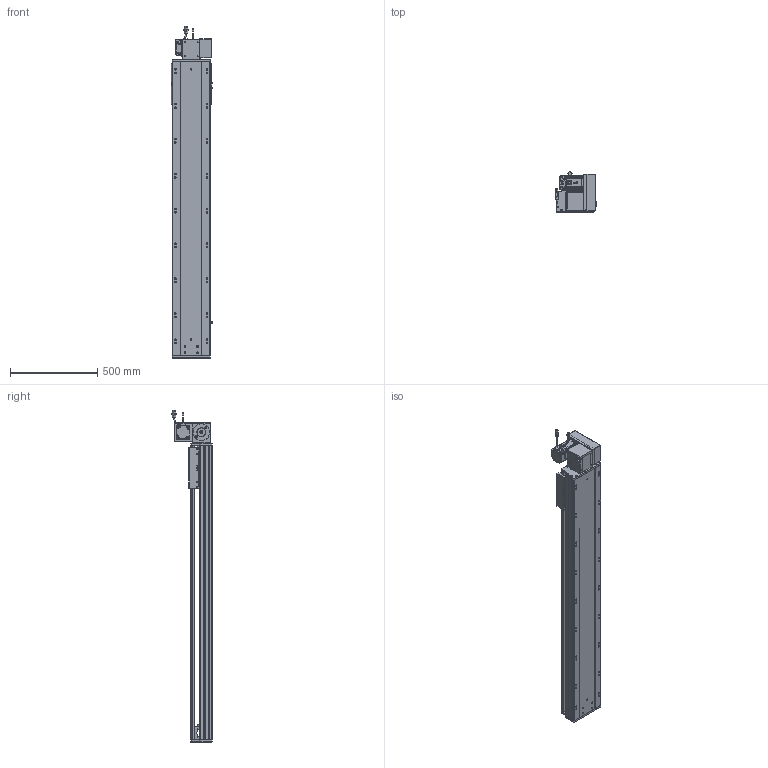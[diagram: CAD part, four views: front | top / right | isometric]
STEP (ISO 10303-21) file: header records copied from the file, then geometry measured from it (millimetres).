
FILE_DESCRIPTION (( 'STEP AP203' ), '1' );
FILE_NAME ('RY220-T-300-UR.SLDASM_1350.step', '2022-07-25T08:43:49', ( '' ), ( '' ), 'SwSTEP 2.0', 'SolidWorks 2016', '' );
FILE_SCHEMA (( 'CONFIG_CONTROL_DESIGN' ));
Length unit declared in the file: millimetre
Products named in the file (14): RY220-同步轮副支撑座6304×2; RY220-T-300-奻裔啣_1350; 覜茼ん672; RY220-俋离672覜茼んえ; RY220-T-蛌殏萇儂假蚾啣(750W); 滅袉蝶18-15; RY220圉猾敕々湍臏賑輸; RY220-T-300-UR.SLDASM_1350; RY220翋肮祭謫裔啣; RY220-T菁釱-300_1350; 110A-T-肮祭謫釱傷裔; 怢湛750W_ECMA-CX0807ES; RY220-T-湍謫欶(鍼踢); RY220翋肮祭謫釱
Assembly tree (18 placements, depth 2):
  RY220-T-300-UR.SLDASM_1350
    RY220-T菁釱-300_1350
    RY220翋肮祭謫釱
    覜茼ん672  x3
    RY220圉猾敕々湍臏賑輸
    RY220-T-300-奻裔啣_1350
    RY220-俋离672覜茼んえ
    滅袉蝶18-15  x3
    RY220翋肮祭謫裔啣  x2
    110A-T-肮祭謫釱傷裔
    怢湛750W_ECMA-CX0807ES
    RY220-T-湍謫欶(鍼踢)
    RY220-T-蛌殏萇儂假蚾啣(750W)
    RY220-同步轮副支撑座6304×2
Bounding box: 238.7 x 231.74 x 1903.27 mm (x, y, z)
Volume: 14525841.3 mm3; surface area: 4318301 mm2
Topology: 19 solids, 19 shells, 2692 faces, 7431 edges, 4704 vertices
Faces by surface type: cylinder 1272, plane 1069, cone 269, bspline 56, sphere 16, torus 10
Entity records: 89603 total; most frequent: CARTESIAN_POINT 25515, ORIENTED_EDGE 13306, DIRECTION 12620, EDGE_CURVE 6653, AXIS2_PLACEMENT_3D 4478, VERTEX_POINT 4328, LINE 3664, VECTOR 3664
